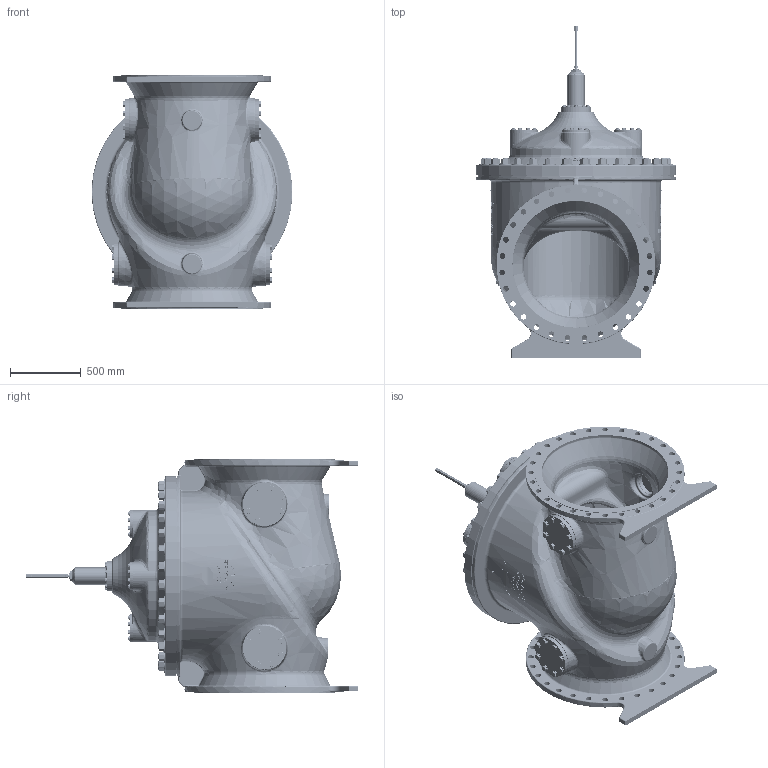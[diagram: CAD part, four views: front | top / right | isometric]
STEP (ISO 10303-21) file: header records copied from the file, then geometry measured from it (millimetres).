
FILE_DESCRIPTION(/* description */ (''),/* implementation_level */ '2;1');
FILE_NAME(/* name */ 'G:\Doc_Liberes\SymbolesCAD\Modeles_3D\FichierSTP\VanneDeBase\TytanM900-16RF.stp',/* time_stamp */ '2023-08-17T11:11:23+02:00',/* author */ ('theo'),/* organization */ (''),/* preprocessor_version */ 'ST-DEVELOPER v18.1',/* originating_system */ 'Autodesk Inventor 2022',/* authorisation */ '');
FILE_SCHEMA (('AUTOMOTIVE_DESIGN { 1 0 10303 214 3 1 1 }'));
Products named in the file (1): TytanM900-16_Simplifier_1
Bounding box: 1422.4 x 2348.24 x 1649.98 mm (x, y, z)
Volume: 393286843.8 mm3; surface area: 21784743.4 mm2
Topology: 1 solids, 1 shells, 4410 faces, 10362 edges, 6269 vertices
Faces by surface type: plane 1446, cone 1039, bspline 916, cylinder 696, torus 279, sphere 34
Full cylindrical faces by diameter (mm): 9.728 x1, 13.16 x2, 16.662 x2, 19 x1, 19.05 x10, 20.64 x1, 22.49 x32, 24 x10, 30 x32, 32.2 x1, 33.61 x32, 36 x1, 38.1 x64, 40 x56, 44 x32, 59.614 x1, 88.9 x33, 115.062 x1, 120.904 x1, 146.05 x1, 152.4 x4, 158.75 x4, 200 x4, 215.9 x1, 300 x4, 800.1 x1, 863.6 x2, 899.922 x2, 1001 x2, 1206.5 x1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
Entity records: 366167 total; most frequent: CARTESIAN_POINT 275245, ORIENTED_EDGE 20462, DIRECTION 16999, EDGE_CURVE 10231, AXIS2_PLACEMENT_3D 6975, VERTEX_POINT 6269, EDGE_LOOP 5034, FACE_OUTER_BOUND 4410
